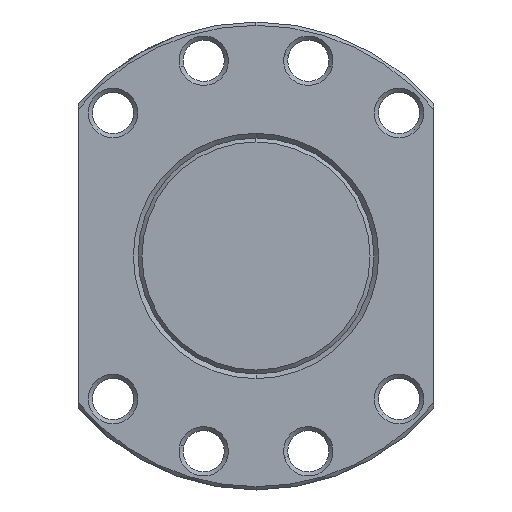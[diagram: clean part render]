
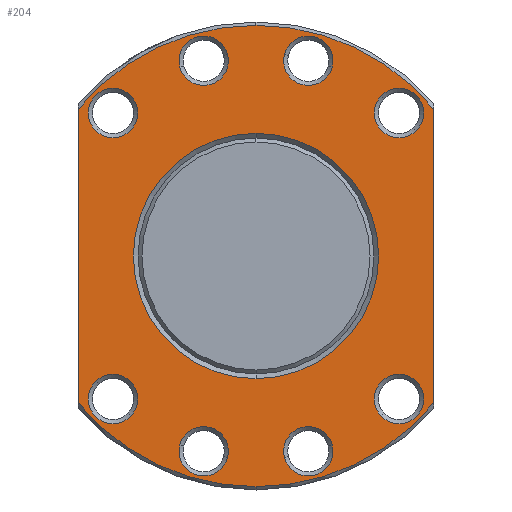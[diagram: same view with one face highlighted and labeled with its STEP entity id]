
A CAD part, left-side view. The second image highlights one B-rep face of the part: STEP entity #204.
In plain terms, the highlighted planar face has unit normal (-1, 0, 0).
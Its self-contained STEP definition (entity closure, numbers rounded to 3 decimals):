
#204=ADVANCED_FACE('',(#386,#387,#388,#389,#390,#391,#392,#393,#394,#395),#396,.T.);
#386=FACE_BOUND('',#587,.T.);
#387=FACE_OUTER_BOUND('',#588,.T.);
#388=FACE_BOUND('',#589,.T.);
#389=FACE_BOUND('',#590,.T.);
#390=FACE_BOUND('',#591,.T.);
#391=FACE_BOUND('',#592,.T.);
#392=FACE_BOUND('',#593,.T.);
#393=FACE_BOUND('',#594,.T.);
#394=FACE_BOUND('',#595,.T.);
#395=FACE_BOUND('',#596,.T.);
#396=PLANE('',#597);
#587=EDGE_LOOP('',(#1207,#1208));
#588=EDGE_LOOP('',(#1209,#1210,#1211,#1212,#1213,#1214));
#589=EDGE_LOOP('',(#1215,#1216));
#590=EDGE_LOOP('',(#1217,#1218));
#591=EDGE_LOOP('',(#1219,#1220));
#592=EDGE_LOOP('',(#1221,#1222));
#593=EDGE_LOOP('',(#1223,#1224));
#594=EDGE_LOOP('',(#1225,#1226));
#595=EDGE_LOOP('',(#1227,#1228));
#596=EDGE_LOOP('',(#1229,#1230));
#597=AXIS2_PLACEMENT_3D('',#1231,#1232,#1233);
#1207=ORIENTED_EDGE('',*,*,#1436,.T.);
#1208=ORIENTED_EDGE('',*,*,#1416,.T.);
#1209=ORIENTED_EDGE('',*,*,#1437,.T.);
#1210=ORIENTED_EDGE('',*,*,#1485,.F.);
#1211=ORIENTED_EDGE('',*,*,#1324,.F.);
#1212=ORIENTED_EDGE('',*,*,#1460,.T.);
#1213=ORIENTED_EDGE('',*,*,#1406,.F.);
#1214=ORIENTED_EDGE('',*,*,#1459,.F.);
#1215=ORIENTED_EDGE('',*,*,#1463,.T.);
#1216=ORIENTED_EDGE('',*,*,#1396,.T.);
#1217=ORIENTED_EDGE('',*,*,#1466,.T.);
#1218=ORIENTED_EDGE('',*,*,#1386,.T.);
#1219=ORIENTED_EDGE('',*,*,#1469,.T.);
#1220=ORIENTED_EDGE('',*,*,#1376,.T.);
#1221=ORIENTED_EDGE('',*,*,#1472,.T.);
#1222=ORIENTED_EDGE('',*,*,#1366,.T.);
#1223=ORIENTED_EDGE('',*,*,#1475,.T.);
#1224=ORIENTED_EDGE('',*,*,#1356,.T.);
#1225=ORIENTED_EDGE('',*,*,#1478,.T.);
#1226=ORIENTED_EDGE('',*,*,#1346,.T.);
#1227=ORIENTED_EDGE('',*,*,#1481,.T.);
#1228=ORIENTED_EDGE('',*,*,#1336,.T.);
#1229=ORIENTED_EDGE('',*,*,#1484,.T.);
#1230=ORIENTED_EDGE('',*,*,#1326,.T.);
#1231=CARTESIAN_POINT('',(25.0,0.0,30.805));
#1232=DIRECTION('',(-1.0,0.0,0.));
#1233=DIRECTION('',(0.,0.0,-1.0));
#1324=EDGE_CURVE('',#1550,#1548,#1552,.T.);
#1326=EDGE_CURVE('',#1556,#1553,#1557,.T.);
#1336=EDGE_CURVE('',#1574,#1571,#1575,.T.);
#1346=EDGE_CURVE('',#1592,#1589,#1593,.T.);
#1356=EDGE_CURVE('',#1610,#1607,#1611,.T.);
#1366=EDGE_CURVE('',#1628,#1625,#1629,.T.);
#1376=EDGE_CURVE('',#1646,#1643,#1647,.T.);
#1386=EDGE_CURVE('',#1664,#1661,#1665,.T.);
#1396=EDGE_CURVE('',#1682,#1679,#1683,.T.);
#1406=EDGE_CURVE('',#1697,#1700,#1701,.T.);
#1416=EDGE_CURVE('',#1718,#1715,#1719,.T.);
#1436=EDGE_CURVE('',#1715,#1718,#1749,.T.);
#1437=EDGE_CURVE('',#1750,#1751,#1752,.T.);
#1459=EDGE_CURVE('',#1750,#1697,#1780,.T.);
#1460=EDGE_CURVE('',#1550,#1700,#1781,.T.);
#1463=EDGE_CURVE('',#1679,#1682,#1784,.T.);
#1466=EDGE_CURVE('',#1661,#1664,#1787,.T.);
#1469=EDGE_CURVE('',#1643,#1646,#1790,.T.);
#1472=EDGE_CURVE('',#1625,#1628,#1793,.T.);
#1475=EDGE_CURVE('',#1607,#1610,#1796,.T.);
#1478=EDGE_CURVE('',#1589,#1592,#1799,.T.);
#1481=EDGE_CURVE('',#1571,#1574,#1802,.T.);
#1484=EDGE_CURVE('',#1553,#1556,#1805,.T.);
#1485=EDGE_CURVE('',#1548,#1751,#1806,.T.);
#1548=VERTEX_POINT('',#1893);
#1550=VERTEX_POINT('',#1896);
#1552=CIRCLE('',#1907,61.61);
#1553=VERTEX_POINT('',#1908);
#1556=VERTEX_POINT('',#1912);
#1557=CIRCLE('',#1913,6.6);
#1571=VERTEX_POINT('',#1932);
#1574=VERTEX_POINT('',#1936);
#1575=CIRCLE('',#1937,6.6);
#1589=VERTEX_POINT('',#1956);
#1592=VERTEX_POINT('',#1960);
#1593=CIRCLE('',#1961,6.6);
#1607=VERTEX_POINT('',#1980);
#1610=VERTEX_POINT('',#1984);
#1611=CIRCLE('',#1985,6.6);
#1625=VERTEX_POINT('',#2004);
#1628=VERTEX_POINT('',#2008);
#1629=CIRCLE('',#2009,6.6);
#1643=VERTEX_POINT('',#2028);
#1646=VERTEX_POINT('',#2032);
#1647=CIRCLE('',#2033,6.6);
#1661=VERTEX_POINT('',#2052);
#1664=VERTEX_POINT('',#2056);
#1665=CIRCLE('',#2057,6.6);
#1679=VERTEX_POINT('',#2076);
#1682=VERTEX_POINT('',#2080);
#1683=CIRCLE('',#2081,6.6);
#1697=VERTEX_POINT('',#2100);
#1700=VERTEX_POINT('',#2104);
#1701=CIRCLE('',#2105,61.61);
#1715=VERTEX_POINT('',#2140);
#1718=VERTEX_POINT('',#2144);
#1719=CIRCLE('',#2145,32.76);
#1749=CIRCLE('',#2251,32.76);
#1750=VERTEX_POINT('',#2252);
#1751=VERTEX_POINT('',#2253);
#1752=LINE('',#2254,#2255);
#1780=CIRCLE('',#2323,61.61);
#1781=LINE('',#2324,#2325);
#1784=CIRCLE('',#2328,6.6);
#1787=CIRCLE('',#2331,6.6);
#1790=CIRCLE('',#2334,6.6);
#1793=CIRCLE('',#2337,6.6);
#1796=CIRCLE('',#2340,6.6);
#1799=CIRCLE('',#2343,6.6);
#1802=CIRCLE('',#2346,6.6);
#1805=CIRCLE('',#2349,6.6);
#1806=CIRCLE('',#2350,61.61);
#1893=CARTESIAN_POINT('',(25.0,0.,-61.61));
#1896=CARTESIAN_POINT('',(25.0,-47.5,-39.237));
#1907=AXIS2_PLACEMENT_3D('',#2421,#2422,#2423);
#1908=CARTESIAN_POINT('',(25.0,-33.517,42.851));
#1912=CARTESIAN_POINT('',(25.0,-42.851,33.517));
#1913=AXIS2_PLACEMENT_3D('',#2425,#2426,#2427);
#1932=CARTESIAN_POINT('',(25.0,-7.601,53.868));
#1936=CARTESIAN_POINT('',(25.0,-20.351,50.452));
#1937=AXIS2_PLACEMENT_3D('',#2443,#2444,#2445);
#1956=CARTESIAN_POINT('',(25.0,20.351,50.452));
#1960=CARTESIAN_POINT('',(25.0,7.601,53.868));
#1961=AXIS2_PLACEMENT_3D('',#2461,#2462,#2463);
#1980=CARTESIAN_POINT('',(25.0,42.851,33.517));
#1984=CARTESIAN_POINT('',(25.0,33.517,42.851));
#1985=AXIS2_PLACEMENT_3D('',#2479,#2480,#2481);
#2004=CARTESIAN_POINT('',(25.0,33.517,-42.851));
#2008=CARTESIAN_POINT('',(25.0,42.851,-33.517));
#2009=AXIS2_PLACEMENT_3D('',#2497,#2498,#2499);
#2028=CARTESIAN_POINT('',(25.0,7.601,-53.868));
#2032=CARTESIAN_POINT('',(25.0,20.351,-50.452));
#2033=AXIS2_PLACEMENT_3D('',#2515,#2516,#2517);
#2052=CARTESIAN_POINT('',(25.0,-20.351,-50.452));
#2056=CARTESIAN_POINT('',(25.0,-7.601,-53.868));
#2057=AXIS2_PLACEMENT_3D('',#2533,#2534,#2535);
#2076=CARTESIAN_POINT('',(25.0,-42.851,-33.517));
#2080=CARTESIAN_POINT('',(25.0,-33.517,-42.851));
#2081=AXIS2_PLACEMENT_3D('',#2551,#2552,#2553);
#2100=CARTESIAN_POINT('',(25.0,0.,61.61));
#2104=CARTESIAN_POINT('',(25.0,-47.5,39.237));
#2105=AXIS2_PLACEMENT_3D('',#2569,#2570,#2571);
#2140=CARTESIAN_POINT('',(25.0,0.0,32.76));
#2144=CARTESIAN_POINT('',(25.0,0.,-32.76));
#2145=AXIS2_PLACEMENT_3D('',#2585,#2586,#2587);
#2251=AXIS2_PLACEMENT_3D('',#2621,#2622,#2623);
#2252=CARTESIAN_POINT('',(25.0,47.5,39.237));
#2253=CARTESIAN_POINT('',(25.0,47.5,-39.237));
#2254=CARTESIAN_POINT('',(25.0,47.5,15.403));
#2255=VECTOR('',#2624,1.0);
#2323=AXIS2_PLACEMENT_3D('',#2668,#2669,#2670);
#2324=CARTESIAN_POINT('',(25.0,-47.5,15.403));
#2325=VECTOR('',#2671,1.0);
#2328=AXIS2_PLACEMENT_3D('',#2678,#2679,#2680);
#2331=AXIS2_PLACEMENT_3D('',#2687,#2688,#2689);
#2334=AXIS2_PLACEMENT_3D('',#2696,#2697,#2698);
#2337=AXIS2_PLACEMENT_3D('',#2705,#2706,#2707);
#2340=AXIS2_PLACEMENT_3D('',#2714,#2715,#2716);
#2343=AXIS2_PLACEMENT_3D('',#2723,#2724,#2725);
#2346=AXIS2_PLACEMENT_3D('',#2732,#2733,#2734);
#2349=AXIS2_PLACEMENT_3D('',#2741,#2742,#2743);
#2350=AXIS2_PLACEMENT_3D('',#2744,#2745,#2746);
#2421=CARTESIAN_POINT('',(25.0,0.0,0.0));
#2422=DIRECTION('',(1.0,0.0,-0.0));
#2423=DIRECTION('',(0.0,0.0,1.0));
#2425=CARTESIAN_POINT('',(25.0,-38.184,38.184));
#2426=DIRECTION('',(1.0,0.0,0.));
#2427=DIRECTION('',(0.,0.707,0.707));
#2443=CARTESIAN_POINT('',(25.0,-13.976,52.16));
#2444=DIRECTION('',(1.0,0.0,0.));
#2445=DIRECTION('',(0.,0.966,0.259));
#2461=CARTESIAN_POINT('',(25.0,13.976,52.16));
#2462=DIRECTION('',(1.0,0.0,0.));
#2463=DIRECTION('',(0.,0.966,-0.259));
#2479=CARTESIAN_POINT('',(25.0,38.184,38.184));
#2480=DIRECTION('',(1.0,0.0,0.));
#2481=DIRECTION('',(0.,0.707,-0.707));
#2497=CARTESIAN_POINT('',(25.0,38.184,-38.184));
#2498=DIRECTION('',(1.0,0.0,0.));
#2499=DIRECTION('',(0.,-0.707,-0.707));
#2515=CARTESIAN_POINT('',(25.0,13.976,-52.16));
#2516=DIRECTION('',(1.0,0.0,0.));
#2517=DIRECTION('',(0.,-0.966,-0.259));
#2533=CARTESIAN_POINT('',(25.0,-13.976,-52.16));
#2534=DIRECTION('',(1.0,0.0,0.));
#2535=DIRECTION('',(0.,-0.966,0.259));
#2551=CARTESIAN_POINT('',(25.0,-38.184,-38.184));
#2552=DIRECTION('',(1.0,0.0,0.));
#2553=DIRECTION('',(0.,-0.707,0.707));
#2569=CARTESIAN_POINT('',(25.0,0.0,0.0));
#2570=DIRECTION('',(1.0,0.0,-0.0));
#2571=DIRECTION('',(0.0,0.0,1.0));
#2585=CARTESIAN_POINT('',(25.0,0.0,0.0));
#2586=DIRECTION('',(1.0,0.0,0.));
#2587=DIRECTION('',(0.,0.0,1.0));
#2621=CARTESIAN_POINT('',(25.0,0.0,0.0));
#2622=DIRECTION('',(1.0,0.0,0.));
#2623=DIRECTION('',(0.,0.0,1.0));
#2624=DIRECTION('',(0.,0.0,-1.0));
#2668=CARTESIAN_POINT('',(25.0,0.0,0.0));
#2669=DIRECTION('',(1.0,0.0,-0.0));
#2670=DIRECTION('',(0.0,0.0,1.0));
#2671=DIRECTION('',(0.,0.0,1.0));
#2678=CARTESIAN_POINT('',(25.0,-38.184,-38.184));
#2679=DIRECTION('',(1.0,0.0,0.));
#2680=DIRECTION('',(0.,-0.707,0.707));
#2687=CARTESIAN_POINT('',(25.0,-13.976,-52.16));
#2688=DIRECTION('',(1.0,0.0,0.));
#2689=DIRECTION('',(0.,-0.966,0.259));
#2696=CARTESIAN_POINT('',(25.0,13.976,-52.16));
#2697=DIRECTION('',(1.0,0.0,0.));
#2698=DIRECTION('',(0.,-0.966,-0.259));
#2705=CARTESIAN_POINT('',(25.0,38.184,-38.184));
#2706=DIRECTION('',(1.0,0.0,0.));
#2707=DIRECTION('',(0.,-0.707,-0.707));
#2714=CARTESIAN_POINT('',(25.0,38.184,38.184));
#2715=DIRECTION('',(1.0,0.0,0.));
#2716=DIRECTION('',(0.,0.707,-0.707));
#2723=CARTESIAN_POINT('',(25.0,13.976,52.16));
#2724=DIRECTION('',(1.0,0.0,0.));
#2725=DIRECTION('',(0.,0.966,-0.259));
#2732=CARTESIAN_POINT('',(25.0,-13.976,52.16));
#2733=DIRECTION('',(1.0,0.0,0.));
#2734=DIRECTION('',(0.,0.966,0.259));
#2741=CARTESIAN_POINT('',(25.0,-38.184,38.184));
#2742=DIRECTION('',(1.0,0.0,0.));
#2743=DIRECTION('',(0.,0.707,0.707));
#2744=CARTESIAN_POINT('',(25.0,0.0,0.0));
#2745=DIRECTION('',(1.0,0.0,-0.0));
#2746=DIRECTION('',(0.0,0.0,1.0));
